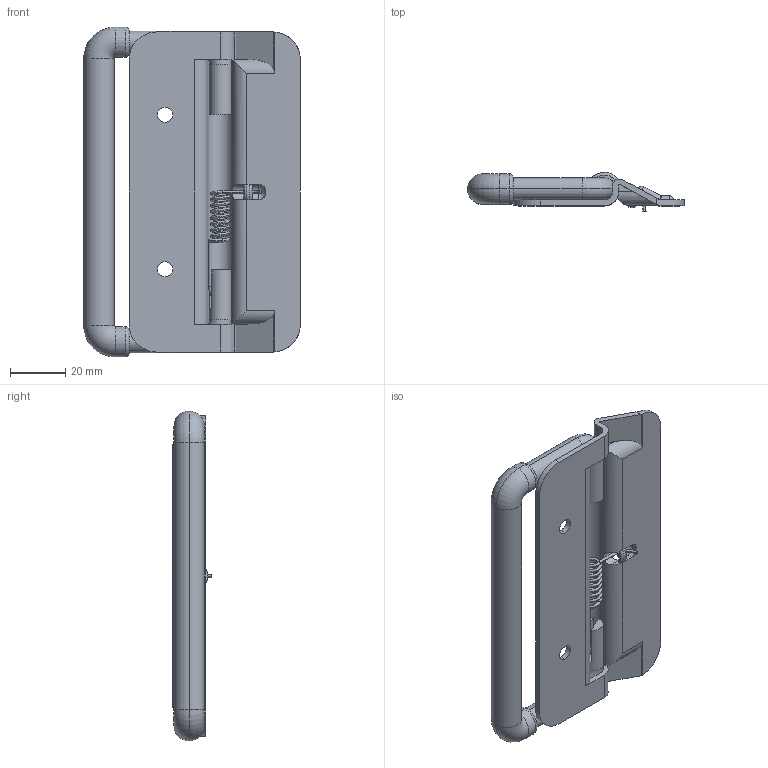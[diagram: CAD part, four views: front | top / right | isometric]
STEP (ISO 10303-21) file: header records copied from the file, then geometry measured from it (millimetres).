
FILE_DESCRIPTION (( 'STEP AP214' ), '1' );
FILE_NAME ('錨璃1.STEP', '2023-06-28T01:38:29', ( 'Windows 蚚誧' ), ( '' ), 'SwSTEP 2.0', 'SolidWorks 2019', '' );
FILE_SCHEMA (( 'AUTOMOTIVE_DESIGN' ));
Length unit declared in the file: millimetre
Products named in the file (1): 錨璃1
Bounding box: 78.5 x 14.1 x 119.5 mm (x, y, z)
Volume: 40897.8 mm3; surface area: 29336.3 mm2
Topology: 4 solids, 4 shells, 196 faces, 515 edges, 305 vertices
Faces by surface type: cylinder 75, plane 61, torus 26, bspline 26, sphere 8
Entity records: 10195 total; most frequent: CARTESIAN_POINT 5205, ORIENTED_EDGE 994, DIRECTION 931, EDGE_CURVE 497, AXIS2_PLACEMENT_3D 365, VERTEX_POINT 301, LINE 201, VECTOR 201
